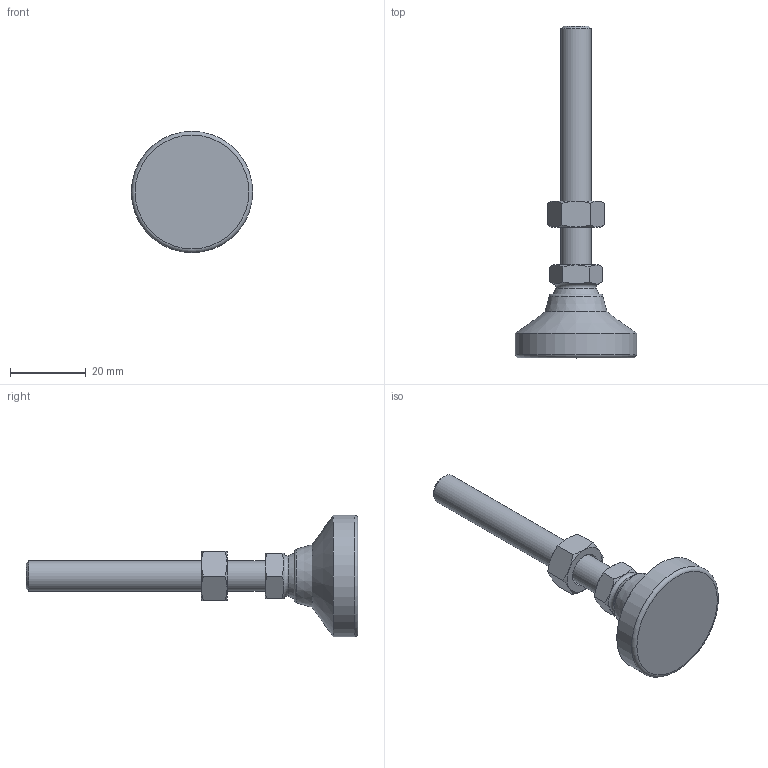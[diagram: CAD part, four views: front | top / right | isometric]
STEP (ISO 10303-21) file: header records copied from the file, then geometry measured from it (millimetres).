
FILE_DESCRIPTION( ( 'STEP AP214' ), ' ' );
FILE_NAME( 'O:/ganter_2015/teil_2/2_5/gn343_2/gn343_2_ks/Levelling foot with threaded stud GN 343.2-32-M8-63-KS-(0).stp', '2015-10-26T09:09:41', ( '' ), ( '' ), ' ', 'PARTsolutions', ' ' );
FILE_SCHEMA( ( 'AUTOMOTIVE_DESIGN { 1 0 10303 214 1 1 1 1 }' ) );
Length unit declared in the file: millimetre
Products named in the file (4): Levelling foot with threaded stud GN 343.2-32-M8-63-KS-(0); _Levelling foot with threaded stud GN 343.2-32-M8-63-KS-(0)_foot; _Gelenkfuss mit Schraube GN 343.2-32-M8-63-KS-(0)_screw; _GLevelling foot with threaded stud GN 343.2-32-M8-63-KS-(0)_nut
Assembly tree (3 placements, depth 2):
  Levelling foot with threaded stud GN 343.2-32-M8-63-KS-(0)
    _Levelling foot with threaded stud GN 343.2-32-M8-63-KS-(0)_foot
    _Gelenkfuss mit Schraube GN 343.2-32-M8-63-KS-(0)_screw
    _GLevelling foot with threaded stud GN 343.2-32-M8-63-KS-(0)_nut
Bounding box: 32 x 87.5 x 32 mm (x, y, z)
Volume: 13512.7 mm3; surface area: 5690.5 mm2
Topology: 3 solids, 3 shells, 50 faces, 107 edges, 63 vertices
Faces by surface type: cone 24, plane 18, torus 3, cylinder 3, sphere 2
Full cylindrical faces by diameter (mm): 6.647 x1, 8 x1, 32 x1
Entity records: 1858 total; most frequent: CARTESIAN_POINT 452, DIRECTION 188, ORIENTED_EDGE 176, AXIS2_PLACEMENT_3D 88, EDGE_CURVE 88, EDGE_LOOP 66, VERTEX_POINT 60, FACE_OUTER_BOUND 56
